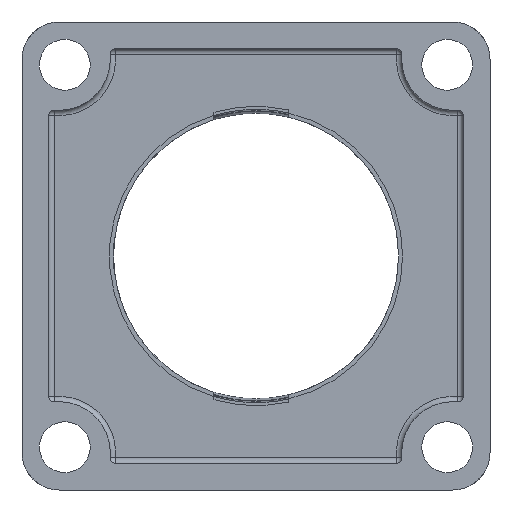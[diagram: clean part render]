
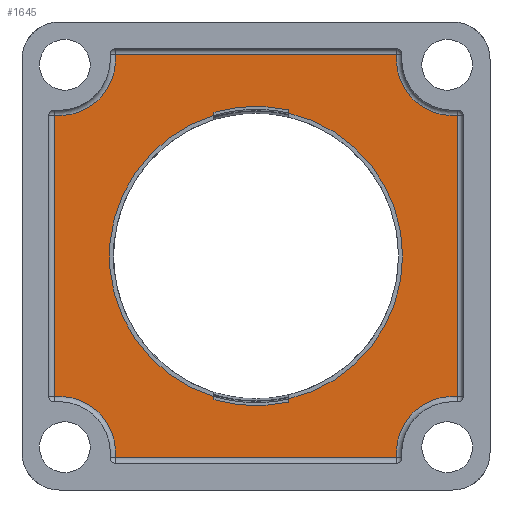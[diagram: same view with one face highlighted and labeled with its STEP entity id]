
A CAD part, front view. The second image highlights one B-rep face of the part: STEP entity #1645.
In plain terms, the highlighted planar face has unit normal (0, -1, 0).
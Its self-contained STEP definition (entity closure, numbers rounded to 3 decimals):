
#51=FACE_BOUND('',#223,.T.);
#118=FACE_OUTER_BOUND('',#222,.T.);
#222=EDGE_LOOP('',(#1119,#1120,#1121,#1122,#1123,#1124,#1125,#1126));
#223=EDGE_LOOP('',(#1127,#1128,#1129,#1130,#1131,#1132,#1133,#1134));
#341=CIRCLE('',#1770,56.);
#344=CIRCLE('',#1775,21.);
#345=CIRCLE('',#1776,21.);
#346=CIRCLE('',#1777,21.);
#347=CIRCLE('',#1778,21.);
#348=CIRCLE('',#1779,54.817);
#349=CIRCLE('',#1780,56.);
#350=CIRCLE('',#1781,54.817);
#461=LINE('',#2563,#576);
#469=LINE('',#2583,#584);
#470=LINE('',#2592,#585);
#471=LINE('',#2596,#586);
#472=LINE('',#2600,#587);
#473=LINE('',#2604,#588);
#474=LINE('',#2609,#589);
#475=LINE('',#2613,#590);
#576=VECTOR('',#1995,10.);
#584=VECTOR('',#2009,10.);
#585=VECTOR('',#2022,10.);
#586=VECTOR('',#2025,10.);
#587=VECTOR('',#2028,10.);
#588=VECTOR('',#2031,10.);
#589=VECTOR('',#2036,10.);
#590=VECTOR('',#2039,10.);
#690=VERTEX_POINT('',#2559);
#692=VERTEX_POINT('',#2562);
#697=VERTEX_POINT('',#2573);
#701=VERTEX_POINT('',#2581);
#702=VERTEX_POINT('',#2590);
#703=VERTEX_POINT('',#2591);
#704=VERTEX_POINT('',#2593);
#705=VERTEX_POINT('',#2595);
#706=VERTEX_POINT('',#2597);
#707=VERTEX_POINT('',#2599);
#708=VERTEX_POINT('',#2601);
#709=VERTEX_POINT('',#2603);
#710=VERTEX_POINT('',#2606);
#711=VERTEX_POINT('',#2608);
#712=VERTEX_POINT('',#2610);
#713=VERTEX_POINT('',#2612);
#848=EDGE_CURVE('',#692,#690,#461,.T.);
#858=EDGE_CURVE('',#697,#701,#469,.T.);
#859=EDGE_CURVE('',#701,#692,#341,.T.);
#862=EDGE_CURVE('',#702,#703,#470,.T.);
#863=EDGE_CURVE('',#704,#702,#344,.T.);
#864=EDGE_CURVE('',#705,#704,#471,.T.);
#865=EDGE_CURVE('',#706,#705,#345,.T.);
#866=EDGE_CURVE('',#707,#706,#472,.T.);
#867=EDGE_CURVE('',#708,#707,#346,.T.);
#868=EDGE_CURVE('',#709,#708,#473,.T.);
#869=EDGE_CURVE('',#703,#709,#347,.T.);
#870=EDGE_CURVE('',#710,#690,#348,.T.);
#871=EDGE_CURVE('',#710,#711,#474,.T.);
#872=EDGE_CURVE('',#711,#712,#349,.T.);
#873=EDGE_CURVE('',#712,#713,#475,.T.);
#874=EDGE_CURVE('',#697,#713,#350,.T.);
#1119=ORIENTED_EDGE('',*,*,#862,.F.);
#1120=ORIENTED_EDGE('',*,*,#863,.F.);
#1121=ORIENTED_EDGE('',*,*,#864,.F.);
#1122=ORIENTED_EDGE('',*,*,#865,.F.);
#1123=ORIENTED_EDGE('',*,*,#866,.F.);
#1124=ORIENTED_EDGE('',*,*,#867,.F.);
#1125=ORIENTED_EDGE('',*,*,#868,.F.);
#1126=ORIENTED_EDGE('',*,*,#869,.F.);
#1127=ORIENTED_EDGE('',*,*,#858,.T.);
#1128=ORIENTED_EDGE('',*,*,#859,.T.);
#1129=ORIENTED_EDGE('',*,*,#848,.T.);
#1130=ORIENTED_EDGE('',*,*,#870,.F.);
#1131=ORIENTED_EDGE('',*,*,#871,.T.);
#1132=ORIENTED_EDGE('',*,*,#872,.T.);
#1133=ORIENTED_EDGE('',*,*,#873,.T.);
#1134=ORIENTED_EDGE('',*,*,#874,.F.);
#1606=PLANE('',#1774);
#1645=ADVANCED_FACE('',(#118,#51),#1606,.F.);
#1770=AXIS2_PLACEMENT_3D('',#2585,#2012,#2013);
#1774=AXIS2_PLACEMENT_3D('',#2589,#2020,#2021);
#1775=AXIS2_PLACEMENT_3D('',#2594,#2023,#2024);
#1776=AXIS2_PLACEMENT_3D('',#2598,#2026,#2027);
#1777=AXIS2_PLACEMENT_3D('',#2602,#2029,#2030);
#1778=AXIS2_PLACEMENT_3D('',#2605,#2032,#2033);
#1779=AXIS2_PLACEMENT_3D('',#2607,#2034,#2035);
#1780=AXIS2_PLACEMENT_3D('',#2611,#2037,#2038);
#1781=AXIS2_PLACEMENT_3D('',#2614,#2040,#2041);
#1995=DIRECTION('',(0.,0.,1.));
#2009=DIRECTION('',(0.,0.,-1.));
#2012=DIRECTION('center_axis',(0.,1.,0.));
#2013=DIRECTION('ref_axis',(0.22,0.,-0.976));
#2020=DIRECTION('center_axis',(0.,1.,0.));
#2021=DIRECTION('ref_axis',(0.,0.,1.));
#2022=DIRECTION('',(1.,0.,0.));
#2023=DIRECTION('center_axis',(0.,-1.,0.));
#2024=DIRECTION('ref_axis',(0.707,0.,-0.707));
#2025=DIRECTION('',(0.,0.,1.));
#2026=DIRECTION('center_axis',(0.,-1.,0.));
#2027=DIRECTION('ref_axis',(0.707,0.,0.707));
#2028=DIRECTION('',(-1.,0.,0.));
#2029=DIRECTION('center_axis',(0.,-1.,0.));
#2030=DIRECTION('ref_axis',(-0.707,0.,0.707));
#2031=DIRECTION('',(0.,0.,-1.));
#2032=DIRECTION('center_axis',(0.,-1.,0.));
#2033=DIRECTION('ref_axis',(-0.707,0.,-0.707));
#2034=DIRECTION('center_axis',(0.,-1.,0.));
#2035=DIRECTION('ref_axis',(1.,0.,0.));
#2036=DIRECTION('',(0.,0.,1.));
#2037=DIRECTION('center_axis',(0.,1.,0.));
#2038=DIRECTION('ref_axis',(0.22,0.,0.976));
#2039=DIRECTION('',(0.,0.,-1.));
#2040=DIRECTION('center_axis',(0.,-1.,0.));
#2041=DIRECTION('ref_axis',(1.,0.,0.));
#2559=CARTESIAN_POINT('',(-15.707,10.,-52.519));
#2562=CARTESIAN_POINT('',(-15.707,10.,-53.752));
#2563=CARTESIAN_POINT('',(-15.707,10.,-24.018));
#2573=CARTESIAN_POINT('',(12.293,10.,-53.421));
#2581=CARTESIAN_POINT('',(12.293,10.,-54.634));
#2583=CARTESIAN_POINT('',(12.293,10.,-27.317));
#2585=CARTESIAN_POINT('Origin',(0.,10.,0.));
#2589=CARTESIAN_POINT('Origin',(0.,10.,0.));
#2590=CARTESIAN_POINT('',(-52.595,10.,75.5));
#2591=CARTESIAN_POINT('',(52.595,10.,75.5));
#2592=CARTESIAN_POINT('',(-27.463,10.,75.5));
#2593=CARTESIAN_POINT('',(-75.5,10.,52.595));
#2594=CARTESIAN_POINT('Origin',(-73.5,10.,73.5));
#2595=CARTESIAN_POINT('',(-75.5,10.,-52.595));
#2596=CARTESIAN_POINT('',(-75.5,10.,-27.463));
#2597=CARTESIAN_POINT('',(-52.595,10.,-75.5));
#2598=CARTESIAN_POINT('Origin',(-73.5,10.,-73.5));
#2599=CARTESIAN_POINT('',(52.595,10.,-75.5));
#2600=CARTESIAN_POINT('',(27.463,10.,-75.5));
#2601=CARTESIAN_POINT('',(75.5,10.,-52.595));
#2602=CARTESIAN_POINT('Origin',(73.5,10.,-73.5));
#2603=CARTESIAN_POINT('',(75.5,10.,52.595));
#2604=CARTESIAN_POINT('',(75.5,10.,27.463));
#2605=CARTESIAN_POINT('Origin',(73.5,10.,73.5));
#2606=CARTESIAN_POINT('',(-15.707,10.,52.519));
#2607=CARTESIAN_POINT('Origin',(0.,10.,0.));
#2608=CARTESIAN_POINT('',(-15.707,10.,53.752));
#2609=CARTESIAN_POINT('',(-15.707,10.,24.018));
#2610=CARTESIAN_POINT('',(12.293,10.,54.634));
#2611=CARTESIAN_POINT('Origin',(0.,10.,0.));
#2612=CARTESIAN_POINT('',(12.293,10.,53.421));
#2613=CARTESIAN_POINT('',(12.293,10.,27.317));
#2614=CARTESIAN_POINT('Origin',(0.,10.,0.));
